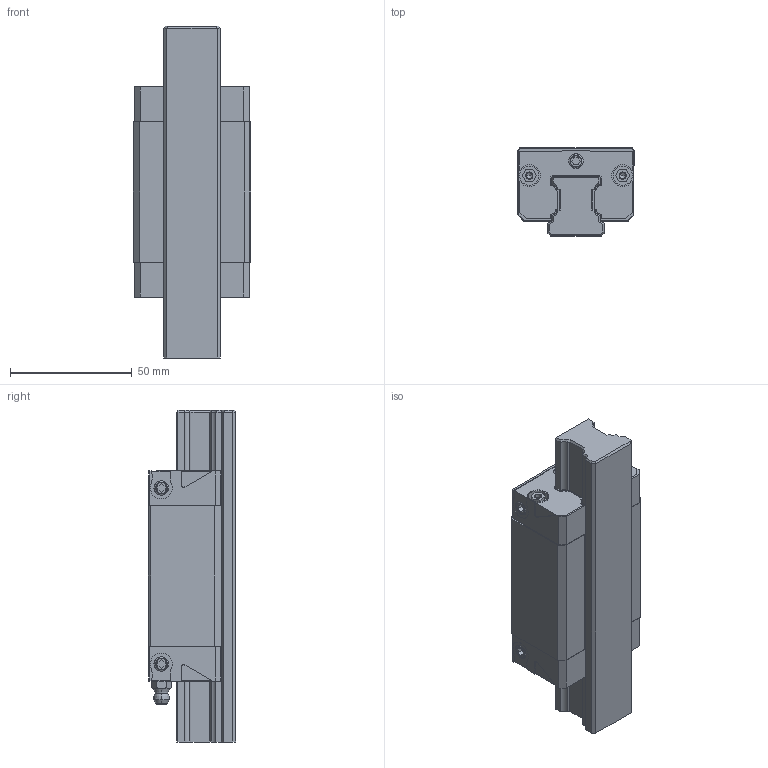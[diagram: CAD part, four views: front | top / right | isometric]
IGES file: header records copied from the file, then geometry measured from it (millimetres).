
Start section: 3D InterOp IGES (v. 2019 1.0.2), Spatial Corp. Copyright (c) 1999-2017.
Global section: file name: R2011 ... 90_size25.igs; native system: Spatial Corp.; preprocessor: 3D InterOp GENERIC/IGES 3.0; author: Noname; organization: Noname; date: 20220629.155235; units: millimetre
Bounding box: 48 x 36 x 136.2 mm (x, y, z)
Surface area: 45971.3 mm2 (no closed solid volume)
Topology: 0 solids, 0 shells, 521 faces, 2748 edges, 2718 vertices
Faces by surface type: extrusion 292, revolution 229
